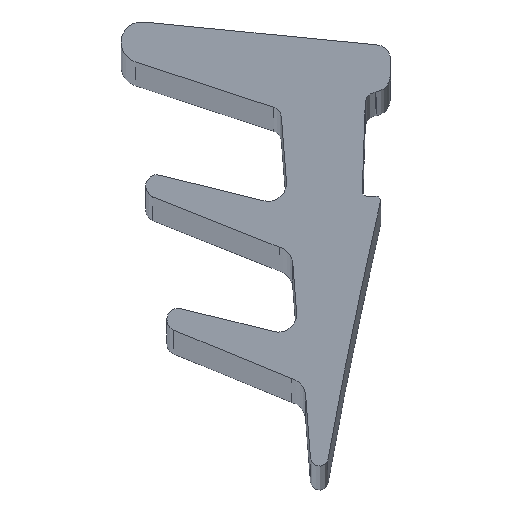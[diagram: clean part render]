
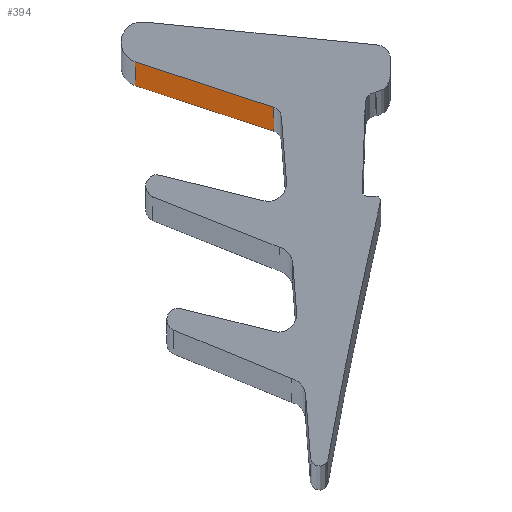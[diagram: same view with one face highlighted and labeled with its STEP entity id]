
A CAD part, top view. The second image highlights one B-rep face of the part: STEP entity #394.
In plain terms, the highlighted planar face has unit normal (-0.312, -0.95, 0).
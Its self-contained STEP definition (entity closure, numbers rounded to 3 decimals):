
#16 = EDGE_LOOP ( 'NONE', ( #1066, #910, #97, #1141 ) ) ;
#21 = CARTESIAN_POINT ( 'NONE',  ( -2.925, 2.665, -300. ) ) ;
#97 = ORIENTED_EDGE ( 'NONE', *, *, #684, .T. ) ;
#108 = AXIS2_PLACEMENT_3D ( 'NONE', #21, #1100, #984 ) ;
#121 = CARTESIAN_POINT ( 'NONE',  ( -2.925, 2.665, -300. ) ) ;
#179 = LINE ( 'NONE', #1153, #746 ) ;
#188 = DIRECTION ( 'NONE',  ( 0.95, -0.312, 0. ) ) ;
#212 = CARTESIAN_POINT ( 'NONE',  ( 0.117, 1.668, 0. ) ) ;
#257 = VERTEX_POINT ( 'NONE', #835 ) ;
#262 = CARTESIAN_POINT ( 'NONE',  ( -2.925, 2.665, 0. ) ) ;
#312 = EDGE_CURVE ( 'NONE', #1138, #1022, #440, .T. ) ;
#314 = CARTESIAN_POINT ( 'NONE',  ( -2.925, 2.665, 0. ) ) ;
#394 = ADVANCED_FACE ( 'NONE', ( #806 ), #1005, .T. ) ;
#440 = LINE ( 'NONE', #314, #908 ) ;
#489 = EDGE_CURVE ( 'NONE', #1151, #1138, #1104, .T. ) ;
#529 = VECTOR ( 'NONE', #864, 1000. ) ;
#590 = EDGE_CURVE ( 'NONE', #257, #1022, #1113, .T. ) ;
#684 = EDGE_CURVE ( 'NONE', #1151, #257, #179, .T. ) ;
#746 = VECTOR ( 'NONE', #1026, 1000. ) ;
#806 = FACE_OUTER_BOUND ( 'NONE', #16, .T. ) ;
#835 = CARTESIAN_POINT ( 'NONE',  ( 0.117, 1.668, -300. ) ) ;
#864 = DIRECTION ( 'NONE',  ( 0., 0., 1. ) ) ;
#872 = DIRECTION ( 'NONE',  ( 0., 0., 1. ) ) ;
#908 = VECTOR ( 'NONE', #188, 1000. ) ;
#910 = ORIENTED_EDGE ( 'NONE', *, *, #489, .F. ) ;
#984 = DIRECTION ( 'NONE',  ( 0.95, -0.312, 0. ) ) ;
#987 = CARTESIAN_POINT ( 'NONE',  ( -2.925, 2.665, -300. ) ) ;
#995 = CARTESIAN_POINT ( 'NONE',  ( 0.117, 1.668, -300. ) ) ;
#1005 = PLANE ( 'NONE',  #108 ) ;
#1022 = VERTEX_POINT ( 'NONE', #212 ) ;
#1026 = DIRECTION ( 'NONE',  ( 0.95, -0.312, 0. ) ) ;
#1066 = ORIENTED_EDGE ( 'NONE', *, *, #312, .F. ) ;
#1100 = DIRECTION ( 'NONE',  ( -0.312, -0.95, 0. ) ) ;
#1104 = LINE ( 'NONE', #987, #529 ) ;
#1113 = LINE ( 'NONE', #995, #1188 ) ;
#1138 = VERTEX_POINT ( 'NONE', #262 ) ;
#1141 = ORIENTED_EDGE ( 'NONE', *, *, #590, .T. ) ;
#1151 = VERTEX_POINT ( 'NONE', #121 ) ;
#1153 = CARTESIAN_POINT ( 'NONE',  ( -2.925, 2.665, -300. ) ) ;
#1188 = VECTOR ( 'NONE', #872, 1000. ) ;
